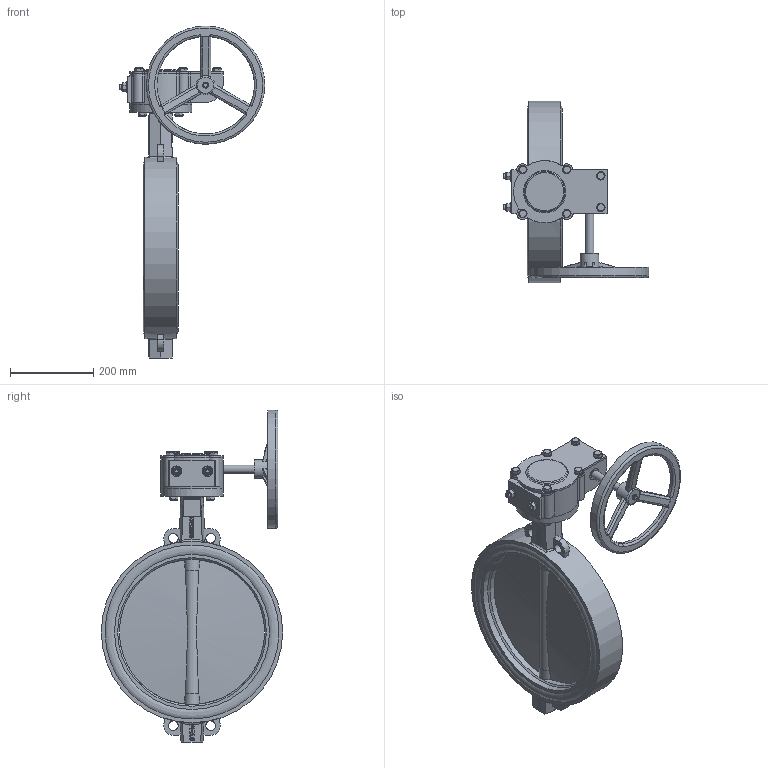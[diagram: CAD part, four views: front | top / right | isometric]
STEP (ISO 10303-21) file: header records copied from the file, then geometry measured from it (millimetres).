
FILE_DESCRIPTION(('STEP AP242'), '1');
FILE_NAME('Ïîâîðîòíûé çàòâîð ïîä ýëåêòðîïðèâîä', '', ('UNSPECIFIED'), ('UNSPECIFIED'), 'C3D Converter', 'C3D Toolkit', '');
FILE_SCHEMA(('AP242_MANAGED_MODEL_BASED_3D_ENGINEERING_MIM_LF { 1 0 10303 442 1 1 4 }'));
Length unit declared in the file: millimetre
Products named in the file (17): П
Assembly tree (36 placements, depth 3):
  (unnamed)
    (unnamed)
    П  x2
    (unnamed)
    (unnamed)
    (unnamed)
    (unnamed)
      (unnamed)
      (unnamed)
      (unnamed)
      (unnamed)
      (unnamed)  x6
      (unnamed)  x6
      (unnamed)  x2
      (unnamed)  x2
      (unnamed)
    (unnamed)  x4
    (unnamed)  x4
Bounding box: 350.5 x 437 x 799.5 mm (x, y, z)
Volume: 9521382.4 mm3; surface area: 1424189.3 mm2
Topology: 35 solids, 35 shells, 844 faces, 2045 edges, 1322 vertices
Faces by surface type: plane 389, extrusion 173, cylinder 145, bspline 60, cone 44, torus 29, sphere 4
Full cylindrical faces by diameter (mm): 6 x2, 10.647 x2, 11.421 x1, 12 x30, 13 x10, 14 x4, 20 x13, 23 x4, 27 x6, 30 x2, 37.05 x4, 38.184 x5, 45 x1, 150 x2, 235 x1, 245 x1, 275 x1, 285 x1, 350 x1, 357.8 x2, 373.4 x2, 396.1 x4, 418.8 x4, 437 x1
Entity records: 34568 total; most frequent: CARTESIAN_POINT 15969, ORIENTED_EDGE 3216, DIRECTION 2461, EDGE_CURVE 1608, VERTEX_POINT 1116, EDGE_LOOP 882, VECTOR 869, AXIS2_PLACEMENT_3D 796
